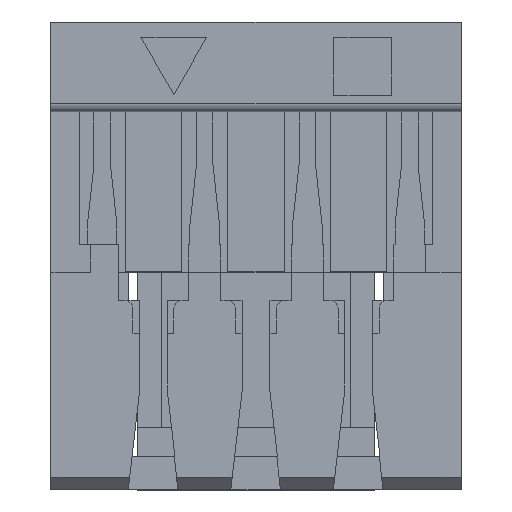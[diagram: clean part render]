
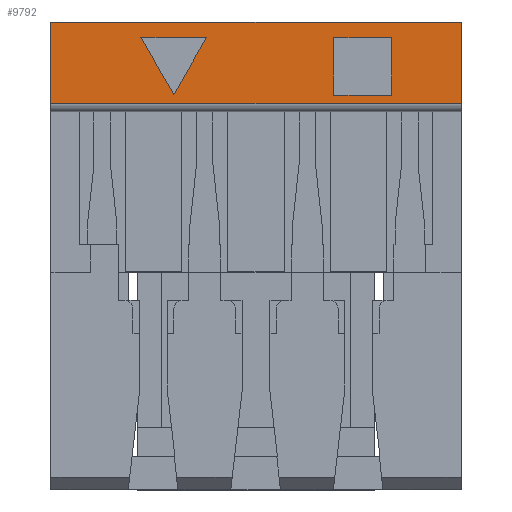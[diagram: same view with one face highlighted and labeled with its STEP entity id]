
A CAD part, top view. The second image highlights one B-rep face of the part: STEP entity #9792.
In plain terms, the highlighted planar face has unit normal (0, 0, 1).
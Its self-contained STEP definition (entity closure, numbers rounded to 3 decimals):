
#47 = LINE ( 'NONE', #6148, #7978 ) ;
#125 = VERTEX_POINT ( 'NONE', #7513 ) ;
#395 = LINE ( 'NONE', #8934, #8090 ) ;
#493 = DIRECTION ( 'NONE',  ( 0., 0., 1. ) ) ;
#511 = ORIENTED_EDGE ( 'NONE', *, *, #3680, .F. ) ;
#540 = VECTOR ( 'NONE', #2599, 1000. ) ;
#767 = DIRECTION ( 'NONE',  ( 0., -1., 0. ) ) ;
#805 = ORIENTED_EDGE ( 'NONE', *, *, #9358, .F. ) ;
#842 = ORIENTED_EDGE ( 'NONE', *, *, #8985, .F. ) ;
#1102 = CARTESIAN_POINT ( 'NONE',  ( 0.949, 4.808, 0. ) ) ;
#1111 = EDGE_CURVE ( 'NONE', #7847, #125, #5751, .T. ) ;
#1139 = VECTOR ( 'NONE', #7252, 1000. ) ;
#1245 = VECTOR ( 'NONE', #8560, 1000. ) ;
#1537 = CARTESIAN_POINT ( 'NONE',  ( -0.605, 5.509, 0. ) ) ;
#1573 = DIRECTION ( 'NONE',  ( 0., -1., 0. ) ) ;
#1662 = EDGE_CURVE ( 'NONE', #6506, #2332, #4891, .T. ) ;
#1798 = EDGE_CURVE ( 'NONE', #6481, #8167, #3333, .T. ) ;
#1880 = CARTESIAN_POINT ( 'NONE',  ( -1., 4.816, 0. ) ) ;
#1898 = DIRECTION ( 'NONE',  ( 1., 0., 0. ) ) ;
#1953 = FACE_OUTER_BOUND ( 'NONE', #7984, .T. ) ;
#2085 = CARTESIAN_POINT ( 'NONE',  ( 2.5, 5.7, 0. ) ) ;
#2332 = VERTEX_POINT ( 'NONE', #5526 ) ;
#2429 = VECTOR ( 'NONE', #3849, 1000. ) ;
#2599 = DIRECTION ( 'NONE',  ( 0.495, 0.869, 0. ) ) ;
#2658 = CARTESIAN_POINT ( 'NONE',  ( -0.605, 5.509, 0. ) ) ;
#2928 = EDGE_CURVE ( 'NONE', #125, #6506, #6152, .T. ) ;
#2965 = LINE ( 'NONE', #1880, #540 ) ;
#3020 = ORIENTED_EDGE ( 'NONE', *, *, #1111, .F. ) ;
#3096 = VECTOR ( 'NONE', #1898, 1000. ) ;
#3193 = CARTESIAN_POINT ( 'NONE',  ( 1.651, 4.808, 0. ) ) ;
#3229 = LINE ( 'NONE', #9522, #1139 ) ;
#3333 = LINE ( 'NONE', #3898, #7651 ) ;
#3680 = EDGE_CURVE ( 'NONE', #4457, #7243, #2965, .T. ) ;
#3749 = EDGE_LOOP ( 'NONE', ( #3020, #4909, #6276, #7614 ) ) ;
#3775 = DIRECTION ( 'NONE',  ( -1., 0., 0. ) ) ;
#3849 = DIRECTION ( 'NONE',  ( -1., 0., 0. ) ) ;
#3858 = ORIENTED_EDGE ( 'NONE', *, *, #4132, .F. ) ;
#3898 = CARTESIAN_POINT ( 'NONE',  ( -2.5, 5.7, 0. ) ) ;
#3999 = CARTESIAN_POINT ( 'NONE',  ( -2.5, 5.7, 0. ) ) ;
#4020 = FACE_BOUND ( 'NONE', #4274, .T. ) ;
#4132 = EDGE_CURVE ( 'NONE', #9185, #4457, #3229, .T. ) ;
#4157 = LINE ( 'NONE', #1537, #6799 ) ;
#4274 = EDGE_LOOP ( 'NONE', ( #842, #511, #3858 ) ) ;
#4281 = LINE ( 'NONE', #3193, #1245 ) ;
#4352 = DIRECTION ( 'NONE',  ( 1., 0., 0. ) ) ;
#4457 = VERTEX_POINT ( 'NONE', #8271 ) ;
#4709 = EDGE_CURVE ( 'NONE', #2332, #7847, #4281, .T. ) ;
#4891 = LINE ( 'NONE', #1102, #3096 ) ;
#4909 = ORIENTED_EDGE ( 'NONE', *, *, #4709, .F. ) ;
#5161 = EDGE_CURVE ( 'NONE', #6481, #9179, #395, .T. ) ;
#5526 = CARTESIAN_POINT ( 'NONE',  ( 1.651, 4.808, 0. ) ) ;
#5580 = FACE_BOUND ( 'NONE', #3749, .T. ) ;
#5708 = CARTESIAN_POINT ( 'NONE',  ( 1.651, 5.509, 0. ) ) ;
#5751 = LINE ( 'NONE', #9144, #5867 ) ;
#5858 = EDGE_CURVE ( 'NONE', #9000, #8167, #9750, .T. ) ;
#5867 = VECTOR ( 'NONE', #9915, 1000. ) ;
#5898 = CARTESIAN_POINT ( 'NONE',  ( -2.5, 5.7, 0. ) ) ;
#5974 = CARTESIAN_POINT ( 'NONE',  ( -2.5, 4.706, 0. ) ) ;
#6148 = CARTESIAN_POINT ( 'NONE',  ( 2.5, 5.7, 0. ) ) ;
#6152 = LINE ( 'NONE', #7737, #6735 ) ;
#6178 = DIRECTION ( 'NONE',  ( 1., 0., 0. ) ) ;
#6276 = ORIENTED_EDGE ( 'NONE', *, *, #1662, .F. ) ;
#6481 = VERTEX_POINT ( 'NONE', #3999 ) ;
#6506 = VERTEX_POINT ( 'NONE', #8534 ) ;
#6529 = PLANE ( 'NONE',  #8892 ) ;
#6668 = CARTESIAN_POINT ( 'NONE',  ( -1.403, 5.509, 0. ) ) ;
#6735 = VECTOR ( 'NONE', #767, 1000. ) ;
#6799 = VECTOR ( 'NONE', #3775, 1000. ) ;
#6840 = ORIENTED_EDGE ( 'NONE', *, *, #5858, .F. ) ;
#6899 = CARTESIAN_POINT ( 'NONE',  ( 2.5, 4.706, 0. ) ) ;
#7243 = VERTEX_POINT ( 'NONE', #2658 ) ;
#7252 = DIRECTION ( 'NONE',  ( 0.503, -0.865, 0. ) ) ;
#7513 = CARTESIAN_POINT ( 'NONE',  ( 0.949, 5.509, 0. ) ) ;
#7614 = ORIENTED_EDGE ( 'NONE', *, *, #2928, .F. ) ;
#7651 = VECTOR ( 'NONE', #1573, 1000. ) ;
#7737 = CARTESIAN_POINT ( 'NONE',  ( 0.949, 5.509, 0. ) ) ;
#7847 = VERTEX_POINT ( 'NONE', #5708 ) ;
#7874 = ORIENTED_EDGE ( 'NONE', *, *, #1798, .T. ) ;
#7891 = ORIENTED_EDGE ( 'NONE', *, *, #5161, .F. ) ;
#7978 = VECTOR ( 'NONE', #9028, 1000. ) ;
#7984 = EDGE_LOOP ( 'NONE', ( #805, #7891, #7874, #6840 ) ) ;
#8090 = VECTOR ( 'NONE', #6178, 1000. ) ;
#8167 = VERTEX_POINT ( 'NONE', #5974 ) ;
#8271 = CARTESIAN_POINT ( 'NONE',  ( -1., 4.816, 0. ) ) ;
#8534 = CARTESIAN_POINT ( 'NONE',  ( 0.949, 4.808, 0. ) ) ;
#8560 = DIRECTION ( 'NONE',  ( 0., 1., 0. ) ) ;
#8892 = AXIS2_PLACEMENT_3D ( 'NONE', #5898, #493, #4352 ) ;
#8934 = CARTESIAN_POINT ( 'NONE',  ( -2.5, 5.7, 0. ) ) ;
#8985 = EDGE_CURVE ( 'NONE', #7243, #9185, #4157, .T. ) ;
#9000 = VERTEX_POINT ( 'NONE', #9152 ) ;
#9028 = DIRECTION ( 'NONE',  ( 0., -1., 0. ) ) ;
#9144 = CARTESIAN_POINT ( 'NONE',  ( 1.651, 5.509, 0. ) ) ;
#9152 = CARTESIAN_POINT ( 'NONE',  ( 2.5, 4.706, 0. ) ) ;
#9179 = VERTEX_POINT ( 'NONE', #2085 ) ;
#9185 = VERTEX_POINT ( 'NONE', #6668 ) ;
#9358 = EDGE_CURVE ( 'NONE', #9179, #9000, #47, .T. ) ;
#9522 = CARTESIAN_POINT ( 'NONE',  ( -1.403, 5.509, 0. ) ) ;
#9750 = LINE ( 'NONE', #6899, #2429 ) ;
#9792 = ADVANCED_FACE ( 'NONE', ( #4020, #5580, #1953 ), #6529, .T. ) ;
#9915 = DIRECTION ( 'NONE',  ( -1., 0., 0. ) ) ;
